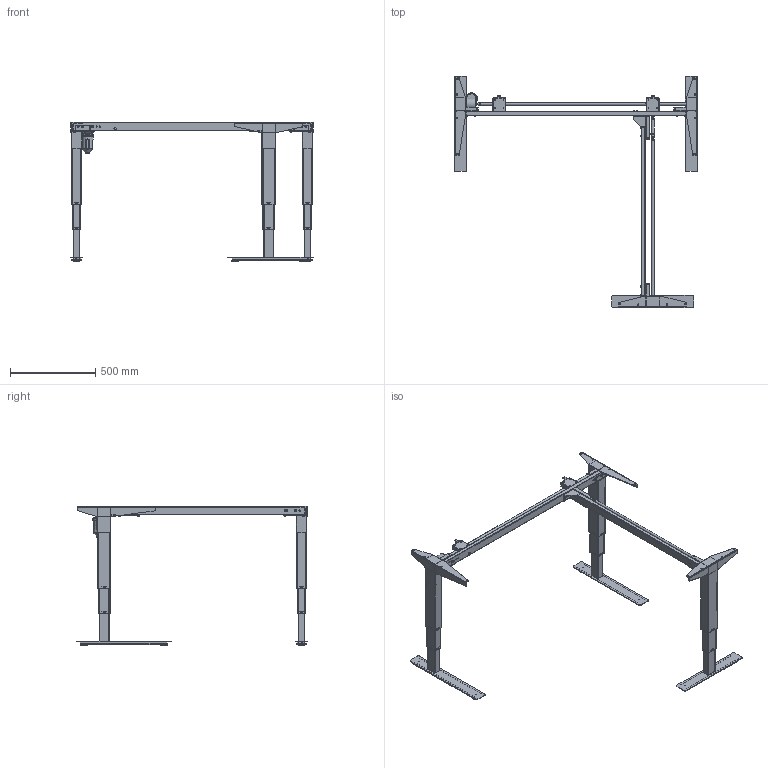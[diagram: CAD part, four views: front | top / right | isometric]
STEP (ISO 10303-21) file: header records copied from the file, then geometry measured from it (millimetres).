
FILE_DESCRIPTION (( 'STEP AP203' ), '1' );
FILE_NAME ('Tech-draw_501-37_XX142-142A.STEP', '2019-09-25T11:52:52', ( '' ), ( '' ), 'SwSTEP 2.0', 'SolidWorks 2018', '' );
FILE_SCHEMA (( 'CONFIG_CONTROL_DESIGN' ));
Length unit declared in the file: millimetre
Products named in the file (56): 138780_black; 344070_shell view; 340760; 332570; 146260; 138760_black; 138770_black; 347920_112; 341130; 349810; 344840_shell view; 341140_shell view; 140140_142 shell view; 344430_black; 324520_black; 138790_black1; 352610; 340560; 344850; 340580; 341170_shell view; 349820; 144260_112; 140320_142; 147340; 140150_shell view; 147240_black1; 341150_shell view; 348720_shell view; 134950_black1; 147210_black; 341120; 138750_black; 341180_shell view; 344910; 148070_black1; 347910_112; 138800_black1; 134920_black1; 344860_shell view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
Assembly tree (113 placements, depth 6):
  Tech-draw_501-37_XX142-142A
    149250_501-37 XB142-142A
      140140_142 shell view
        140330_142
          345230_142
          340580  x2
        140320_142
          138920_142
            344250_142
            340560
            341220
        140150_shell view  x2
          344910
      138760_black
        148070_black1
          341130
          341180_shell view
          348720_shell view
        138780_black
          138800_black1
            341150_shell view
            344070_shell view
            344080
          134950_black1
            341140_shell view
          341800_black  x4
        341800_black  x4
        324520_black  x2
        344430_black
        352610
      138750_black
        134920_black1
          341120
          341170_shell view
          340540_shell view
        138770_black
          138790_black1
            341150_shell view
            344070_shell view
            344080
          134950_black1
            341140_shell view
          341800_black  x4
        341800_black  x4
        324520_black  x2
      147210_black
        147230_black1
          341120
          344860_shell view
          340540_shell view
        147220_black
          147240_black1
            341150_shell view
            344840_shell view
            344850
          134950_black1
            341140_shell view
          341800_black  x4
        341800_black  x4
        324520_black  x2
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Bounding box: 1429 x 1358.6 x 817 mm (x, y, z)
Volume: 4212942.4 mm3; surface area: 3958132.4 mm2
Topology: 90 solids, 90 shells, 5701 faces, 14767 edges, 9341 vertices
Faces by surface type: plane 3249, cylinder 1813, bspline 309, cone 208, torus 122
Full cylindrical faces by diameter (mm): 2.8 x6, 3 x6, 3.5 x1, 4.5 x9, 4.6 x6, 5 x20, 5.5 x2, 6 x22, 6.2 x4, 6.5 x8, 7 x18, 7.5 x2, 7.6 x6, 8 x29, 10 x18, 11.9 x6, 12 x3, 13 x6, 14.3 x4, 15 x6, 16 x4, 17 x1, 18 x3, 20 x2, 37.6 x12, 60 x1
Entity records: 104612 total; most frequent: CARTESIAN_POINT 39949, ORIENTED_EDGE 11986, DIRECTION 11496, EDGE_CURVE 5993, AXIS2_PLACEMENT_3D 4086, VERTEX_POINT 3891, LINE 3324, VECTOR 3324
